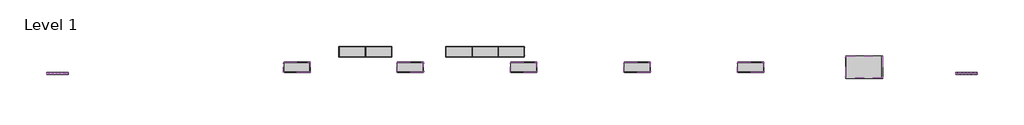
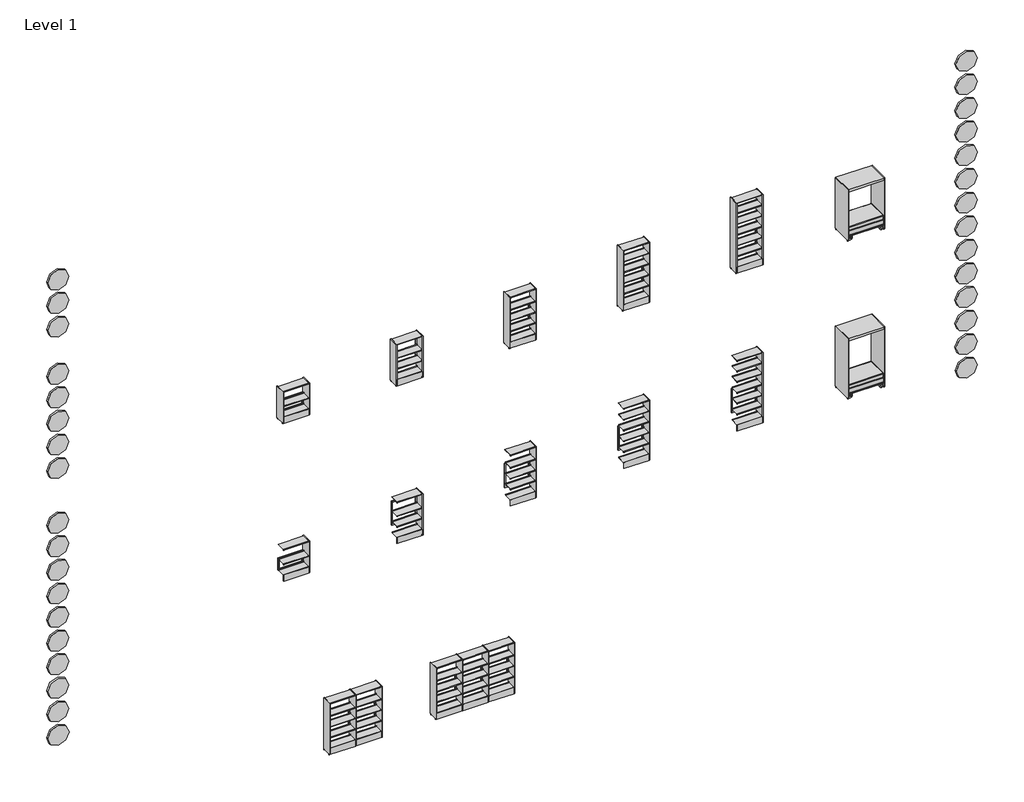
# One storey: 32 proxies, 17 furniture elements.
"""IFC4 building model written with IfcOpenShell, lengths in millimetres."""

from ifc_helpers import new_model, si_unit, origin, place, context, project, spatial, transform, mapped, element, save
from components import materialmodel_materialmodel_37012b21, furniture_750x295_5d69b9cf, furniture_750x295_07cc5ffa, furniture_750x295_e54d80aa, furniture_750x295_18b06e9d, furniture_750x295_3e7eba69, furniture_750x295_7441573b, furniture_750x295_8a70aaf8, furniture_750x295_d1ab3b45, furniture_750x295_23b6f23a, furniture_750x295_b42d7867, bk_library_sitting_cave_to_shelf_1530_a43be609, bk_library_sitting_cave_to_shelf_1800_9197c93b

model = new_model("IFC4")

# Units and contexts
model_context = context("Model", 3, world=origin())
ifc_project = project(units=[si_unit("LENGTHUNIT", "METRE", prefix="MILLI")], contexts=[model_context])

# Site, building, storey
site = spatial("IfcSite", under=ifc_project)
building = spatial("IfcBuilding", under=site)
storey = spatial("IfcBuildingStorey", under=building, Name="Level 1", Elevation=0.0)

# Proxies
placement = place(None, origin())
materialmodel_materialmodel_shape = materialmodel_materialmodel_37012b21(model_context)
element("IfcBuildingElementProxy", 1, Name="MaterialModel : MaterialModel", ObjectType="MaterialModel : MaterialModel", at=placement, inside=storey, context=model_context, shape_type="MappedRepresentation", body=[
    mapped(materialmodel_materialmodel_shape, transform((-18567.0147555, 6390.3767321, 6820.7797695), x_axis=(1.0, 0.0, 0.0), y_axis=(0.0, 1.0, 0.0), z_axis=(0.0, 0.0, 1.0))),
])
element("IfcBuildingElementProxy", 2, Name="MaterialModel : MaterialModel", ObjectType="MaterialModel : MaterialModel", at=placement, inside=storey, context=model_context, shape_type="MappedRepresentation", body=[
    mapped(materialmodel_materialmodel_shape, transform((-18567.0147555, 6390.3767321, 7523.0950226), x_axis=(1.0, 0.0, 0.0), y_axis=(0.0, 1.0, 0.0), z_axis=(0.0, 0.0, 1.0))),
])
element("IfcBuildingElementProxy", 3, Name="MaterialModel : MaterialModel", ObjectType="MaterialModel : MaterialModel", at=placement, inside=storey, context=model_context, shape_type="MappedRepresentation", body=[
    mapped(materialmodel_materialmodel_shape, transform((-18567.0147555, 6390.3767321, 6118.4645164), x_axis=(1.0, 0.0, 0.0), y_axis=(0.0, 1.0, 0.0), z_axis=(0.0, 0.0, 1.0))),
])
element("IfcBuildingElementProxy", 4, Name="MaterialModel : MaterialModel", ObjectType="MaterialModel : MaterialModel", at=placement, inside=storey, context=model_context, shape_type="MappedRepresentation", body=[
    mapped(materialmodel_materialmodel_shape, transform((-18567.0147555, 6390.3767321, 4713.8340103), x_axis=(1.0, 0.0, 0.0), y_axis=(0.0, 1.0, 0.0), z_axis=(0.0, 0.0, 1.0))),
])
element("IfcBuildingElementProxy", 5, Name="MaterialModel : MaterialModel", ObjectType="MaterialModel : MaterialModel", at=placement, inside=storey, context=model_context, shape_type="MappedRepresentation", body=[
    mapped(materialmodel_materialmodel_shape, transform((-18567.0147555, 6390.3767321, 4011.5187572), x_axis=(1.0, 0.0, 0.0), y_axis=(0.0, 1.0, 0.0), z_axis=(0.0, 0.0, 1.0))),
])
element("IfcBuildingElementProxy", 6, Name="MaterialModel : MaterialModel", ObjectType="MaterialModel : MaterialModel", at=placement, inside=storey, context=model_context, shape_type="MappedRepresentation", body=[
    mapped(materialmodel_materialmodel_shape, transform((-18567.0147555, 6390.3767321, 3309.2035041), x_axis=(1.0, 0.0, 0.0), y_axis=(0.0, 1.0, 0.0), z_axis=(0.0, 0.0, 1.0))),
])
element("IfcBuildingElementProxy", 7, Name="MaterialModel : MaterialModel", ObjectType="MaterialModel : MaterialModel", at=placement, inside=storey, context=model_context, shape_type="MappedRepresentation", body=[
    mapped(materialmodel_materialmodel_shape, transform((-18567.0147555, 6390.3767321, 2606.888251), x_axis=(1.0, 0.0, 0.0), y_axis=(0.0, 1.0, 0.0), z_axis=(0.0, 0.0, 1.0))),
])
element("IfcBuildingElementProxy", 8, Name="MaterialModel : MaterialModel", ObjectType="MaterialModel : MaterialModel", at=placement, inside=storey, context=model_context, shape_type="MappedRepresentation", body=[
    mapped(materialmodel_materialmodel_shape, transform((-18567.0147555, 6390.3767321, 1904.5729979), x_axis=(1.0, 0.0, 0.0), y_axis=(0.0, 1.0, 0.0), z_axis=(0.0, 0.0, 1.0))),
])
element("IfcBuildingElementProxy", 9, Name="MaterialModel : MaterialModel", ObjectType="MaterialModel : MaterialModel", at=placement, inside=storey, context=model_context, shape_type="MappedRepresentation", body=[
    mapped(materialmodel_materialmodel_shape, transform((-18567.0147555, 6390.3767321, 280.2904747), x_axis=(1.0, 0.0, 0.0), y_axis=(0.0, 1.0, 0.0), z_axis=(0.0, 0.0, 1.0))),
])
element("IfcBuildingElementProxy", 10, Name="MaterialModel : MaterialModel", ObjectType="MaterialModel : MaterialModel", at=placement, inside=storey, context=model_context, shape_type="MappedRepresentation", body=[
    mapped(materialmodel_materialmodel_shape, transform((-18567.0147555, 6390.3767321, -1124.3400315), x_axis=(1.0, 0.0, 0.0), y_axis=(0.0, 1.0, 0.0), z_axis=(0.0, 0.0, 1.0))),
])
element("IfcBuildingElementProxy", 11, Name="MaterialModel : MaterialModel", ObjectType="MaterialModel : MaterialModel", at=placement, inside=storey, context=model_context, shape_type="MappedRepresentation", body=[
    mapped(materialmodel_materialmodel_shape, transform((-18567.0147555, 6390.3767321, -422.0247784), x_axis=(1.0, 0.0, 0.0), y_axis=(0.0, 1.0, 0.0), z_axis=(0.0, 0.0, 1.0))),
])
element("IfcBuildingElementProxy", 12, Name="MaterialModel : MaterialModel", ObjectType="MaterialModel : MaterialModel", at=placement, inside=storey, context=model_context, shape_type="MappedRepresentation", body=[
    mapped(materialmodel_materialmodel_shape, transform((-18567.0147555, 6390.3767321, -2528.9705377), x_axis=(1.0, 0.0, 0.0), y_axis=(0.0, 1.0, 0.0), z_axis=(0.0, 0.0, 1.0))),
])
element("IfcBuildingElementProxy", 13, Name="MaterialModel : MaterialModel", ObjectType="MaterialModel : MaterialModel", at=placement, inside=storey, context=model_context, shape_type="MappedRepresentation", body=[
    mapped(materialmodel_materialmodel_shape, transform((-18567.0147555, 6390.3767321, -1826.6552846), x_axis=(1.0, 0.0, 0.0), y_axis=(0.0, 1.0, 0.0), z_axis=(0.0, 0.0, 1.0))),
])
element("IfcBuildingElementProxy", 14, Name="MaterialModel : MaterialModel", ObjectType="MaterialModel : MaterialModel", at=placement, inside=storey, context=model_context, shape_type="MappedRepresentation", body=[
    mapped(materialmodel_materialmodel_shape, transform((-18567.0147555, 6390.3767321, -3933.6010438), x_axis=(1.0, 0.0, 0.0), y_axis=(0.0, 1.0, 0.0), z_axis=(0.0, 0.0, 1.0))),
])
element("IfcBuildingElementProxy", 15, Name="MaterialModel : MaterialModel", ObjectType="MaterialModel : MaterialModel", at=placement, inside=storey, context=model_context, shape_type="MappedRepresentation", body=[
    mapped(materialmodel_materialmodel_shape, transform((-18567.0147555, 6390.3767321, -3231.2857907), x_axis=(1.0, 0.0, 0.0), y_axis=(0.0, 1.0, 0.0), z_axis=(0.0, 0.0, 1.0))),
])
element("IfcBuildingElementProxy", 16, Name="MaterialModel : MaterialModel", ObjectType="MaterialModel : MaterialModel", at=placement, inside=storey, context=model_context, shape_type="MappedRepresentation", body=[
    mapped(materialmodel_materialmodel_shape, transform((-18567.0147555, 6390.3767321, -5338.23155), x_axis=(1.0, 0.0, 0.0), y_axis=(0.0, 1.0, 0.0), z_axis=(0.0, 0.0, 1.0))),
])
element("IfcBuildingElementProxy", 17, Name="MaterialModel : MaterialModel", ObjectType="MaterialModel : MaterialModel", at=placement, inside=storey, context=model_context, shape_type="MappedRepresentation", body=[
    mapped(materialmodel_materialmodel_shape, transform((-18567.0147555, 6390.3767321, -4635.9162969), x_axis=(1.0, 0.0, 0.0), y_axis=(0.0, 1.0, 0.0), z_axis=(0.0, 0.0, 1.0))),
])
element("IfcBuildingElementProxy", 18, Name="MaterialModel : MaterialModel", ObjectType="MaterialModel : MaterialModel", at=placement, inside=storey, context=model_context, shape_type="MappedRepresentation", body=[
    mapped(materialmodel_materialmodel_shape, transform((-18562.8693038, 6390.3767321, -6040.5468031), x_axis=(1.0, 0.0, 0.0), y_axis=(0.0, 1.0, 0.0), z_axis=(0.0, 0.0, 1.0))),
])
element("IfcBuildingElementProxy", 19, Name="MaterialModel : MaterialModel", ObjectType="MaterialModel : MaterialModel", at=placement, inside=storey, context=model_context, shape_type="MappedRepresentation", body=[
    mapped(materialmodel_materialmodel_shape, transform((6997.3918806, 6390.3767321, 4380.0096307), x_axis=(1.0, 0.0, 0.0), y_axis=(0.0, 1.0, 0.0), z_axis=(0.0, 0.0, 1.0))),
])
element("IfcBuildingElementProxy", 20, Name="MaterialModel : MaterialModel", ObjectType="MaterialModel : MaterialModel", at=placement, inside=storey, context=model_context, shape_type="MappedRepresentation", body=[
    mapped(materialmodel_materialmodel_shape, transform((6997.3918806, 6390.3767321, 5082.3248837), x_axis=(1.0, 0.0, 0.0), y_axis=(0.0, 1.0, 0.0), z_axis=(0.0, 0.0, 1.0))),
])
element("IfcBuildingElementProxy", 21, Name="MaterialModel : MaterialModel", ObjectType="MaterialModel : MaterialModel", at=placement, inside=storey, context=model_context, shape_type="MappedRepresentation", body=[
    mapped(materialmodel_materialmodel_shape, transform((6997.3918806, 6390.3767321, 2975.3791245), x_axis=(1.0, 0.0, 0.0), y_axis=(0.0, 1.0, 0.0), z_axis=(0.0, 0.0, 1.0))),
])
element("IfcBuildingElementProxy", 22, Name="MaterialModel : MaterialModel", ObjectType="MaterialModel : MaterialModel", at=placement, inside=storey, context=model_context, shape_type="MappedRepresentation", body=[
    mapped(materialmodel_materialmodel_shape, transform((6997.3918806, 6390.3767321, 3677.6943776), x_axis=(1.0, 0.0, 0.0), y_axis=(0.0, 1.0, 0.0), z_axis=(0.0, 0.0, 1.0))),
])
element("IfcBuildingElementProxy", 23, Name="MaterialModel : MaterialModel", ObjectType="MaterialModel : MaterialModel", at=placement, inside=storey, context=model_context, shape_type="MappedRepresentation", body=[
    mapped(materialmodel_materialmodel_shape, transform((6997.3918806, 6390.3767321, 1570.7486183), x_axis=(1.0, 0.0, 0.0), y_axis=(0.0, 1.0, 0.0), z_axis=(0.0, 0.0, 1.0))),
])
element("IfcBuildingElementProxy", 24, Name="MaterialModel : MaterialModel", ObjectType="MaterialModel : MaterialModel", at=placement, inside=storey, context=model_context, shape_type="MappedRepresentation", body=[
    mapped(materialmodel_materialmodel_shape, transform((6997.3918806, 6390.3767321, 2273.0638714), x_axis=(1.0, 0.0, 0.0), y_axis=(0.0, 1.0, 0.0), z_axis=(0.0, 0.0, 1.0))),
])
element("IfcBuildingElementProxy", 25, Name="MaterialModel : MaterialModel", ObjectType="MaterialModel : MaterialModel", at=placement, inside=storey, context=model_context, shape_type="MappedRepresentation", body=[
    mapped(materialmodel_materialmodel_shape, transform((6997.3918806, 6390.3767321, 857.8970235), x_axis=(1.0, 0.0, 0.0), y_axis=(0.0, 1.0, 0.0), z_axis=(0.0, 0.0, 1.0))),
])
element("IfcBuildingElementProxy", 26, Name="MaterialModel : MaterialModel", ObjectType="MaterialModel : MaterialModel", at=placement, inside=storey, context=model_context, shape_type="MappedRepresentation", body=[
    mapped(materialmodel_materialmodel_shape, transform((6997.3918806, 6390.3767321, -546.7334827), x_axis=(1.0, 0.0, 0.0), y_axis=(0.0, 1.0, 0.0), z_axis=(0.0, 0.0, 1.0))),
])
element("IfcBuildingElementProxy", 27, Name="MaterialModel : MaterialModel", ObjectType="MaterialModel : MaterialModel", at=placement, inside=storey, context=model_context, shape_type="MappedRepresentation", body=[
    mapped(materialmodel_materialmodel_shape, transform((6997.3918806, 6390.3767321, 155.5817704), x_axis=(1.0, 0.0, 0.0), y_axis=(0.0, 1.0, 0.0), z_axis=(0.0, 0.0, 1.0))),
])
element("IfcBuildingElementProxy", 28, Name="MaterialModel : MaterialModel", ObjectType="MaterialModel : MaterialModel", at=placement, inside=storey, context=model_context, shape_type="MappedRepresentation", body=[
    mapped(materialmodel_materialmodel_shape, transform((6997.3918806, 6390.3767321, -1951.3639888), x_axis=(1.0, 0.0, 0.0), y_axis=(0.0, 1.0, 0.0), z_axis=(0.0, 0.0, 1.0))),
])
element("IfcBuildingElementProxy", 29, Name="MaterialModel : MaterialModel", ObjectType="MaterialModel : MaterialModel", at=placement, inside=storey, context=model_context, shape_type="MappedRepresentation", body=[
    mapped(materialmodel_materialmodel_shape, transform((6997.3918806, 6390.3767321, -1249.0487358), x_axis=(1.0, 0.0, 0.0), y_axis=(0.0, 1.0, 0.0), z_axis=(0.0, 0.0, 1.0))),
])
element("IfcBuildingElementProxy", 30, Name="MaterialModel : MaterialModel", ObjectType="MaterialModel : MaterialModel", at=placement, inside=storey, context=model_context, shape_type="MappedRepresentation", body=[
    mapped(materialmodel_materialmodel_shape, transform((6997.3918806, 6390.3767321, -3355.994495), x_axis=(1.0, 0.0, 0.0), y_axis=(0.0, 1.0, 0.0), z_axis=(0.0, 0.0, 1.0))),
])
element("IfcBuildingElementProxy", 31, Name="MaterialModel : MaterialModel", ObjectType="MaterialModel : MaterialModel", at=placement, inside=storey, context=model_context, shape_type="MappedRepresentation", body=[
    mapped(materialmodel_materialmodel_shape, transform((6997.3918806, 6390.3767321, -2653.6792419), x_axis=(1.0, 0.0, 0.0), y_axis=(0.0, 1.0, 0.0), z_axis=(0.0, 0.0, 1.0))),
])
element("IfcBuildingElementProxy", 32, Name="MaterialModel : MaterialModel", ObjectType="MaterialModel : MaterialModel", at=placement, inside=storey, context=model_context, shape_type="MappedRepresentation", body=[
    mapped(materialmodel_materialmodel_shape, transform((7001.5373322, 6390.3767321, -4058.3097481), x_axis=(1.0, 0.0, 0.0), y_axis=(0.0, 1.0, 0.0), z_axis=(0.0, 0.0, 1.0))),
])

# Furniture
furniture_750x295_shape = furniture_750x295_5d69b9cf(model_context)
element("IfcFurniture", 33, ObjectType="BK Library - Smaaland ES - 2100 : 750x295", at=placement, inside=storey, context=model_context, shape_type="MappedRepresentation", body=[
    mapped(furniture_750x295_shape, transform((924.1302204, 6539.3767164, 1273.9383366), x_axis=(1.0, 0.0, 0.0), y_axis=(0.0, 1.0, 0.0), z_axis=(0.0, 0.0, 1.0))),
])
furniture_750x295_2_shape = furniture_750x295_07cc5ffa(model_context)
element("IfcFurniture", 34, ObjectType="BK Library - Smaaland ES - 1800 : 750x295", at=placement, inside=storey, context=model_context, shape_type="MappedRepresentation", body=[
    mapped(furniture_750x295_2_shape, transform((-2265.8697796, 6539.3767164, 1273.9383366), x_axis=(1.0, 0.0, 0.0), y_axis=(0.0, 1.0, 0.0), z_axis=(0.0, 0.0, 1.0))),
])
furniture_750x295_3_shape = furniture_750x295_e54d80aa(model_context)
element("IfcFurniture", 35, ObjectType="BK Library - Smaaland ES - 1530 : 750x295", at=placement, inside=storey, context=model_context, shape_type="MappedRepresentation", body=[
    mapped(furniture_750x295_3_shape, transform((-10271.1347342, 6981.3401314, -9400.0), x_axis=(1.0, 0.0, 0.0), y_axis=(0.0, 1.0, 0.0), z_axis=(0.0, 0.0, 1.0))),
])
element("IfcFurniture", 36, ObjectType="BK Library - Smaaland ES - 1530 : 750x295", at=placement, inside=storey, context=model_context, shape_type="MappedRepresentation", body=[
    mapped(furniture_750x295_3_shape, transform((-7271.1347342, 6981.3401314, -9400.0), x_axis=(1.0, 0.0, 0.0), y_axis=(0.0, 1.0, 0.0), z_axis=(0.0, 0.0, 1.0))),
])
element("IfcFurniture", 37, ObjectType="BK Library - Smaaland ES - 1530 : 750x295", at=placement, inside=storey, context=model_context, shape_type="MappedRepresentation", body=[
    mapped(furniture_750x295_3_shape, transform((-5455.8697796, 6539.3767164, 1273.9383366), x_axis=(1.0, 0.0, 0.0), y_axis=(0.0, 1.0, 0.0), z_axis=(0.0, 0.0, 1.0))),
])
furniture_750x295_4_shape = furniture_750x295_18b06e9d(model_context)
element("IfcFurniture", 38, ObjectType="BK Library - Smaaland ES - 1240 : 750x295", at=placement, inside=storey, context=model_context, shape_type="MappedRepresentation", body=[
    mapped(furniture_750x295_4_shape, transform((-8645.8697796, 6539.3767164, 1273.9383366), x_axis=(1.0, 0.0, 0.0), y_axis=(0.0, 1.0, 0.0), z_axis=(0.0, 0.0, 1.0))),
])
furniture_750x295_5_shape = furniture_750x295_3e7eba69(model_context)
element("IfcFurniture", 39, ObjectType="BK Library - Smaaland ES - 950 : 750x295", at=placement, inside=storey, context=model_context, shape_type="MappedRepresentation", body=[
    mapped(furniture_750x295_5_shape, transform((-11835.8697796, 6539.3767164, 1273.9383366), x_axis=(1.0, 0.0, 0.0), y_axis=(0.0, 1.0, 0.0), z_axis=(0.0, 0.0, 1.0))),
])
furniture_750x295_6_shape = furniture_750x295_7441573b(model_context)
element("IfcFurniture", 40, ObjectType="BK Library - Smaaland EF - 2100 : 750x295", at=placement, inside=storey, context=model_context, shape_type="MappedRepresentation", body=[
    mapped(furniture_750x295_6_shape, transform((924.1302204, 6539.3767164, -3426.0616634), x_axis=(1.0, 0.0, 0.0), y_axis=(0.0, 1.0, 0.0), z_axis=(0.0, 0.0, 1.0))),
])
furniture_750x295_7_shape = furniture_750x295_8a70aaf8(model_context)
element("IfcFurniture", 41, ObjectType="BK Library - Smaaland EF - 1800 : 750x295", at=placement, inside=storey, context=model_context, shape_type="MappedRepresentation", body=[
    mapped(furniture_750x295_7_shape, transform((-2265.8697796, 6539.3767164, -3426.0616634), x_axis=(1.0, 0.0, 0.0), y_axis=(0.0, 1.0, 0.0), z_axis=(0.0, 0.0, 1.0))),
])
furniture_750x295_8_shape = furniture_750x295_d1ab3b45(model_context)
element("IfcFurniture", 42, ObjectType="BK Library - Smaaland EF - 1530 : 750x295", at=placement, inside=storey, context=model_context, shape_type="MappedRepresentation", body=[
    mapped(furniture_750x295_8_shape, transform((-9540.1347342, 6981.3401314, -9400.0), x_axis=(1.0, 0.0, 0.0), y_axis=(0.0, 1.0, 0.0), z_axis=(0.0, 0.0, 1.0))),
])
element("IfcFurniture", 43, ObjectType="BK Library - Smaaland EF - 1530 : 750x295", at=placement, inside=storey, context=model_context, shape_type="MappedRepresentation", body=[
    mapped(furniture_750x295_8_shape, transform((-6540.1347342, 6981.3401314, -9400.0), x_axis=(1.0, 0.0, 0.0), y_axis=(0.0, 1.0, 0.0), z_axis=(0.0, 0.0, 1.0))),
])
element("IfcFurniture", 44, ObjectType="BK Library - Smaaland EF - 1530 : 750x295", at=placement, inside=storey, context=model_context, shape_type="MappedRepresentation", body=[
    mapped(furniture_750x295_8_shape, transform((-5809.1347342, 6981.3401314, -9400.0), x_axis=(1.0, 0.0, 0.0), y_axis=(0.0, 1.0, 0.0), z_axis=(0.0, 0.0, 1.0))),
])
element("IfcFurniture", 45, ObjectType="BK Library - Smaaland EF - 1530 : 750x295", at=placement, inside=storey, context=model_context, shape_type="MappedRepresentation", body=[
    mapped(furniture_750x295_8_shape, transform((-5455.8697796, 6539.3767164, -3426.0616634), x_axis=(1.0, 0.0, 0.0), y_axis=(0.0, 1.0, 0.0), z_axis=(0.0, 0.0, 1.0))),
])
furniture_750x295_9_shape = furniture_750x295_23b6f23a(model_context)
element("IfcFurniture", 46, ObjectType="BK Library - Smaaland EF - 1240 : 750x295", at=placement, inside=storey, context=model_context, shape_type="MappedRepresentation", body=[
    mapped(furniture_750x295_9_shape, transform((-8645.8697796, 6539.3767164, -3426.0616634), x_axis=(1.0, 0.0, 0.0), y_axis=(0.0, 1.0, 0.0), z_axis=(0.0, 0.0, 1.0))),
])
furniture_750x295_10_shape = furniture_750x295_b42d7867(model_context)
element("IfcFurniture", 47, ObjectType="BK Library - Smaaland EF - 950 : 750x295", at=placement, inside=storey, context=model_context, shape_type="MappedRepresentation", body=[
    mapped(furniture_750x295_10_shape, transform((-11835.8697796, 6539.3767164, -3426.0616634), x_axis=(1.0, 0.0, 0.0), y_axis=(0.0, 1.0, 0.0), z_axis=(0.0, 0.0, 1.0))),
])
bk_library_sitting_cave_to_shelf_1530_shape = bk_library_sitting_cave_to_shelf_1530_a43be609(model_context)
element("IfcFurniture", 48, ObjectType="BK Library - Sitting Cave to Shelf : 1530", at=placement, inside=storey, context=model_context, shape_type="MappedRepresentation", body=[
    mapped(bk_library_sitting_cave_to_shelf_1530_shape, transform((4114.1302204, 6539.3767164, 1273.9383366), x_axis=(1.0, 0.0, 0.0), y_axis=(0.0, 1.0, 0.0), z_axis=(0.0, 0.0, 1.0))),
])
bk_library_sitting_cave_to_shelf_1800_shape = bk_library_sitting_cave_to_shelf_1800_9197c93b(model_context)
element("IfcFurniture", 49, ObjectType="BK Library - Sitting Cave to Shelf : 1800", at=placement, inside=storey, context=model_context, shape_type="MappedRepresentation", body=[
    mapped(bk_library_sitting_cave_to_shelf_1800_shape, transform((4114.1302204, 6539.3767164, -3426.0616634), x_axis=(1.0, 0.0, 0.0), y_axis=(0.0, 1.0, 0.0), z_axis=(0.0, 0.0, 1.0))),
])

save(model, "model.ifc")
